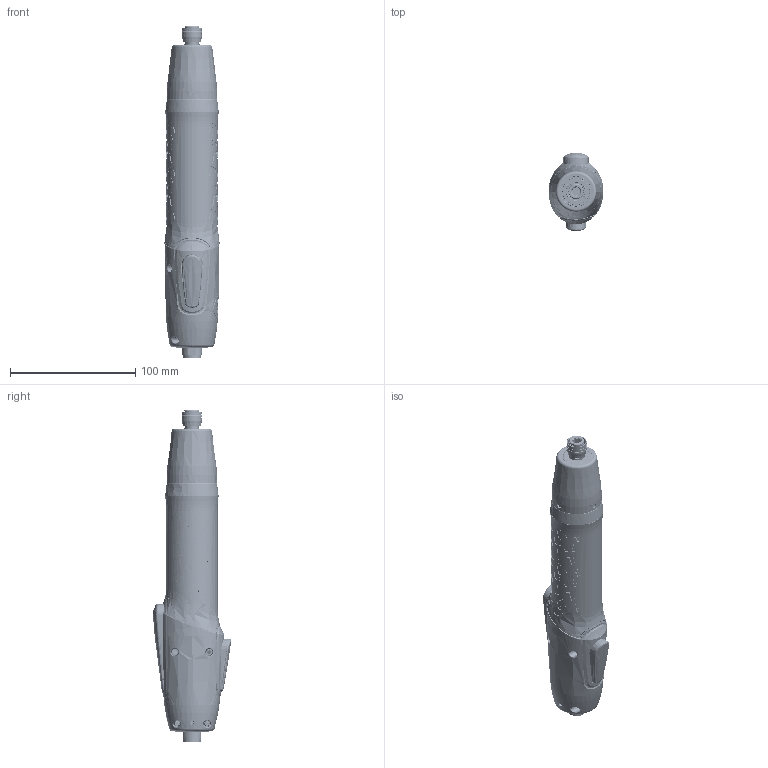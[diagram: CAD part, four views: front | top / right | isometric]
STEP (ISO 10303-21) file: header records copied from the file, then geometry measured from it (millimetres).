
FILE_DESCRIPTION((''),'2;1');
FILE_NAME('IR-_X2_4E2D578B75356D4167AA88C5_ASM','2025-10-24T10:35:22',('robinsonzhou'),(''),'CREO PARAMETRIC BY PTC INC, 2023494','CREO PARAMETRIC BY PTC INC, 2023494','');
FILE_SCHEMA(('CONFIG_CONTROL_DESIGN'));
Length unit declared in the file: millimetre
Products named in the file (45): _P2G034-5P-200001; _10001; P2H046__X2_4E2D578B9A7152A857FA_ASM; P7L393-IR_X2_55466807_X0_LOGO-2; P6Z068-IR_X2_4E2D578B7535-45757; P6P021-_X2_6B638F6C630994AE_X0_; P8T219-_X2_688582B1516D89D287BA; P6Z068-R-_X2_530580F6_X0_-20250; P6R011-_X2_56FA5B9A5708_X0_-202; P6Z068-IR_X2_4E2D578B753-359083; P6Z068-L-_X2_530580F6_X0_-20250; P6P024--202504020001_1; DM-304____X2_4E0B8F74_X0_SB_2_0; DM-830__X2_57AB5708_X0_24X1_2_S; 156902ZZ-20250312_6802ZZ_2_STEP; DM-202_J_X2_4E0A8F74_X0_B7_5_7_; 1524X1_2_X2_53CD541153617C27_X0; 156902ZZ-20250312_6901ZZ_2_STEP; 156902ZZ-20250312_6706ZZS_2_STE; 15_X2_4E0B538B8F745F397C27_X0_0; 15_X2_8F747528538B624194A24E1D6; 15ASSEM13569_7_5_X2_4E2D578B753_ASM; P4H290-DM-650_150_X2_8F745E3D_X; _X2_970D5C145F005173_X0_-202409; L-001__X2_706F7F69_X0__18_STEP; _-121790001; _-1352480001; _-2719610001; L-002__X2_706F5EA7_X0__18_STEP_ASM; KM-3P_X2_63D25934_X0_-20240914_; _-12610001; _-162270001; _-1283800001; _-1474890001; _-4032460001; LED_X2_706F706F76D8_X0_3_0_X2_7_ASM; LED_X2_706F76D87EC44EF6_X0_-202_ASM; LED_X2_706F7F697EC44EF6_X0_A_17_ASM; L-005__X2_970D5C145EA7_X0__18_S; L-004__X2_591658F3_X0_B__X2_536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
Assembly tree (49 placements, depth 7):
  IR-_X2_4E2D578B75356D4167AA88C5_ASM
    P2H046__X2_4E2D578B9A7152A857FA_ASM
      _P2G034-5P-200001
      _10001
    P7L393-IR_X2_55466807_X0_LOGO-2
    P6Z068-IR_X2_4E2D578B7535-45757
    P6P021-_X2_6B638F6C630994AE_X0_
    P8T219-_X2_688582B1516D89D287BA  x2
    P6Z068-R-_X2_530580F6_X0_-20250
    P6R011-_X2_56FA5B9A5708_X0_-202
    P6Z068-IR_X2_4E2D578B753-359083
    P6Z068-L-_X2_530580F6_X0_-20250
    P6P024--202504020001_1
    _X2_4E2D578B4E0B538B5F0F-266745_ASM
      15ASSEM13569_7_5_X2_4E2D578B753_ASM
        DM-304____X2_4E0B8F74_X0_SB_2_0
        DM-830__X2_57AB5708_X0_24X1_2_S
        156902ZZ-20250312_6802ZZ_2_STEP  x2
        DM-202_J_X2_4E0A8F74_X0_B7_5_7_
        1524X1_2_X2_53CD541153617C27_X0  x3
        156902ZZ-20250312_6901ZZ_2_STEP  x2
        156902ZZ-20250312_6706ZZS_2_STE
        15_X2_4E0B538B8F745F397C27_X0_0
        15_X2_8F747528538B624194A24E1D6
      P4H290-DM-650_150_X2_8F745E3D_X
      _X2_4E2D578B4E0B538B5F0F_X0_LED_ASM
        _X2_970D5C145F005173_X0_-202409
        LED_X2_706F7F697EC44EF6_X0_A_17_ASM
          L-001__X2_706F7F69_X0__18_STEP
          L-002__X2_706F5EA7_X0__18_STEP_ASM
            _-121790001
            _-1352480001
            _-2719610001
          LED_X2_706F76D87EC44EF6_X0_-202_ASM
            KM-3P_X2_63D25934_X0_-20240914_
            LED_X2_706F706F76D8_X0_3_0_X2_7_ASM
              _-12610001
              _-162270001
              _-1283800001
              _-1474890001
              _-4032460001
        L-005__X2_970D5C145EA7_X0__18_S
        L-004__X2_591658F3_X0_B__X2_536
      DM-702___I_X2_62A45957_X0_P__X2
      DM-002__J_X2_6CD55170_X0_P_STEP
Bounding box: 43.94 x 62.62 x 265.17 mm (x, y, z)
Volume: 138080.5 mm3; surface area: 154582.3 mm2
Topology: 43 solids, 46 shells, 7248 faces, 20750 edges, 13757 vertices
Faces by surface type: plane 2294, cylinder 2065, extrusion 1069, bspline 819, cone 545, torus 240, sphere 212, revolution 4
Entity records: 347175 total; most frequent: CARTESIAN_POINT 178011, ORIENTED_EDGE 40616, DIRECTION 25571, EDGE_CURVE 20311, VERTEX_POINT 13576, B_SPLINE_CURVE_WITH_KNOTS 10691, VECTOR 8687, AXIS2_PLACEMENT_3D 8441
